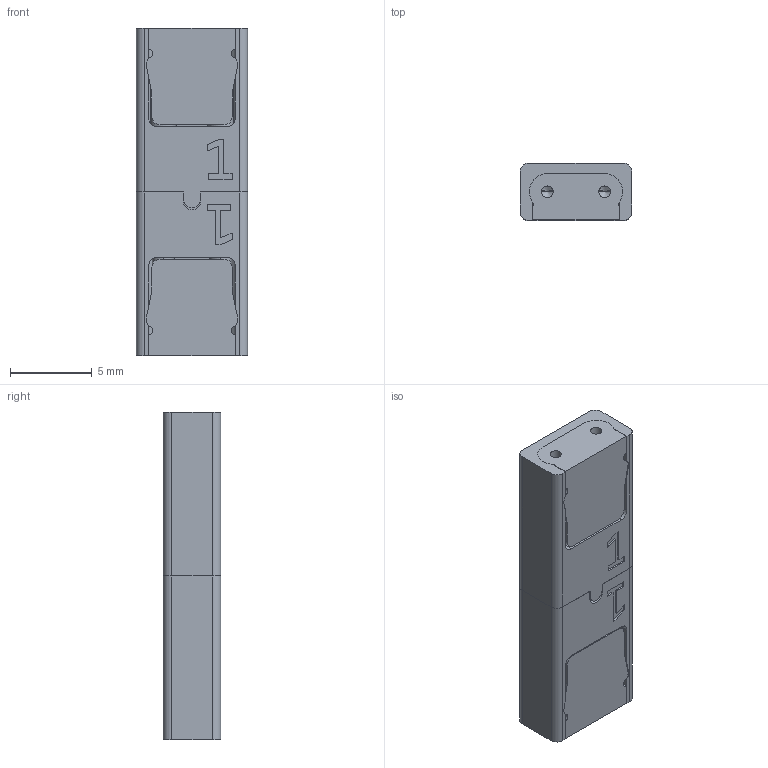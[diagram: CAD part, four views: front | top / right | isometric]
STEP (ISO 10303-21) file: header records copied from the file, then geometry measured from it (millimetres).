
FILE_DESCRIPTION(/* description */ (''),/* implementation_level */ '2;1');
FILE_NAME(/* name */ 'A001599C_VOL-001.stp',/* time_stamp */ '2023-03-01T09:07:06+01:00',/* author */ (''),/* organization */ ('JPE'),/* preprocessor_version */ 'ST-DEVELOPER v19.3',/* originating_system */ 'SIEMENS PLM Software NX2212.3001',/* authorisation */ '');
FILE_SCHEMA (('AUTOMOTIVE_DESIGN { 1 0 10303 214 3 1 1 1 }'));
Products named in the file (7): PP05311; PP05310; P182325C; P182323C_MODEL; P182324C_MODEL; A001599C; A001599C_BRO-001a
Assembly tree (9 placements, depth 4):
  A001599C_BRO-001a
    A001599C
      P182324C_MODEL
        PP05310  x2
      P182325C  x2
      P182323C_MODEL
        PP05311  x2
Bounding box: 6.8 x 3.5 x 20 mm (x, y, z)
Volume: 397.6 mm3; surface area: 1065 mm2
Topology: 8 solids, 8 shells, 300 faces, 784 edges, 494 vertices
Faces by surface type: cylinder 124, plane 122, cone 46, torus 4, sphere 4
Full cylindrical faces by diameter (mm): 0.7 x4, 1.2 x2, 1.3 x2, 1.8 x2
Entity records: 6331 total; most frequent: CARTESIAN_POINT 1373, DIRECTION 1003, ORIENTED_EDGE 988, EDGE_CURVE 494, AXIS2_PLACEMENT_3D 366, VERTEX_POINT 326, LINE 271, VECTOR 271
